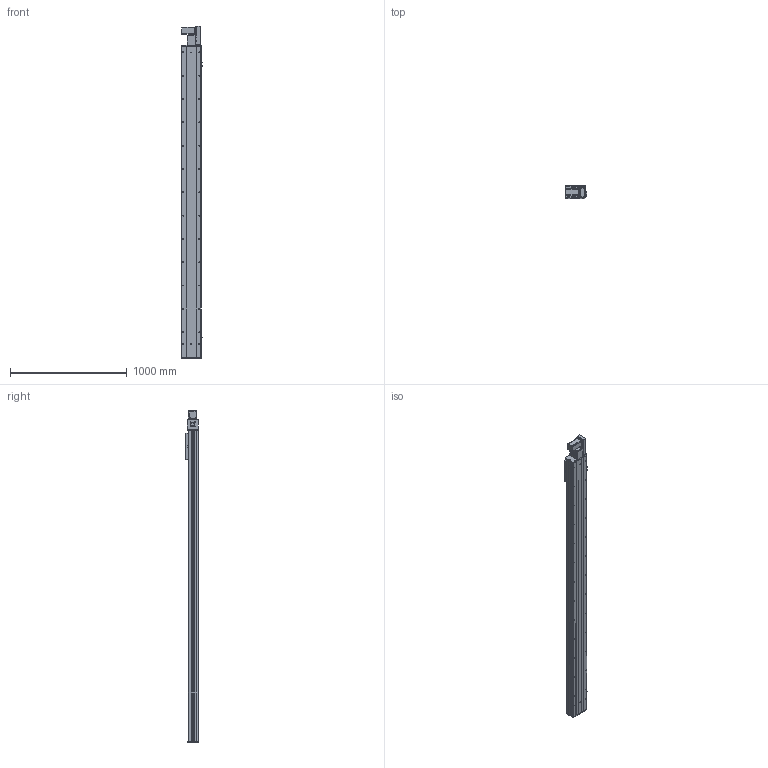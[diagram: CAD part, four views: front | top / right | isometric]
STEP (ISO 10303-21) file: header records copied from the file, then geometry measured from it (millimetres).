
FILE_DESCRIPTION (( 'STEP AP203' ), '1' );
FILE_NAME ('Y170CB-D105-S2350-BR-P400W.STEP', '2020-02-19T09:46:56', ( '微软用户' ), ( '微软中国' ), 'SwSTEP 2.0', 'SolidWorks 2017', '' );
FILE_SCHEMA (( 'CONFIG_CONTROL_DESIGN' ));
Length unit declared in the file: millimetre
Products named in the file (17): 70C-雄赽釱-奻-; 0C--雄赽釱俋欶-170; 70CB-詩湍--; Y100-135俋离換覜ん--; Y170CB-陔俋离換覜結え---; Y170CB-D105-S2350-BR-P400W; 0B-萇儂楊擘啣; san松下电机400不带刹车----; 70B喘謫眊----; B-源倛裔啣; 17B-耜蚾蟀諉啣----; Y70俋欶BR----; 70CB-掛极-; --70CB --喘謫眊楊擘啣-; 70CB-耜裔啣-; 70C--詩湍揤踡え-; 70CB--耜裔
Assembly tree (20 placements, depth 2):
  Y170CB-D105-S2350-BR-P400W
    70B喘謫眊----
    B-源倛裔啣
    17B-耜蚾蟀諉啣----
    0B-萇儂楊擘啣
    san松下电机400不带刹车----
    Y70俋欶BR----
    70CB-掛极-
    --70CB --喘謫眊楊擘啣-
    70CB-耜裔啣-  x2
    70C--詩湍揤踡え-  x2
    70CB--耜裔
    70C-雄赽釱-奻-
    0C--雄赽釱俋欶-170
    70CB-詩湍--
    Y100-135俋离換覜ん--  x3
    Y170CB-陔俋离換覜結え---
Bounding box: 183.5 x 107 x 2847 mm (x, y, z)
Volume: 11847475.4 mm3; surface area: 4269197 mm2
Topology: 20 solids, 20 shells, 1049 faces, 2825 edges, 1874 vertices
Faces by surface type: cylinder 563, plane 462, cone 24
Entity records: 33503 total; most frequent: CARTESIAN_POINT 6201, DIRECTION 5452, ORIENTED_EDGE 5132, EDGE_CURVE 2566, AXIS2_PLACEMENT_3D 2005, VERTEX_POINT 1704, LINE 1442, VECTOR 1442
